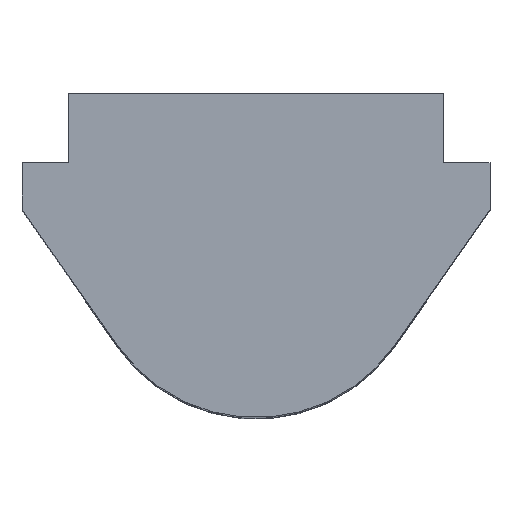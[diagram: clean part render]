
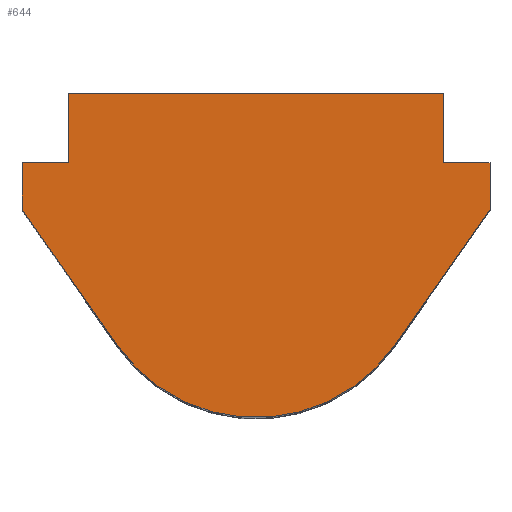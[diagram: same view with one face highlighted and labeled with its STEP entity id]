
A CAD part, top view. The second image highlights one B-rep face of the part: STEP entity #644.
In plain terms, the highlighted planar face has unit normal (0, 0, 1).
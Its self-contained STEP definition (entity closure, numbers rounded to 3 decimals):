
#4 = LINE ( 'NONE', #164, #259 ) ;
#11 = DIRECTION ( 'NONE',  ( 0., -1., 0. ) ) ;
#13 = DIRECTION ( 'NONE',  ( 0., 0., 1. ) ) ;
#19 = CARTESIAN_POINT ( 'NONE',  ( 5.05, -2.5, 10. ) ) ;
#33 = EDGE_CURVE ( 'NONE', #517, #569, #4, .T. ) ;
#41 = LINE ( 'NONE', #574, #222 ) ;
#59 = DIRECTION ( 'NONE',  ( -1., 0., 0. ) ) ;
#69 = CARTESIAN_POINT ( 'NONE',  ( -4.05, -1.5, 10. ) ) ;
#73 = VECTOR ( 'NONE', #597, 1000. ) ;
#86 = CARTESIAN_POINT ( 'NONE',  ( 5.05, -1.5, 10. ) ) ;
#93 = VERTEX_POINT ( 'NONE', #186 ) ;
#96 = CARTESIAN_POINT ( 'NONE',  ( 5.05, -1.5, 10. ) ) ;
#102 = VERTEX_POINT ( 'NONE', #229 ) ;
#109 = ORIENTED_EDGE ( 'NONE', *, *, #623, .T. ) ;
#121 = CARTESIAN_POINT ( 'NONE',  ( 0., -3.352, 10. ) ) ;
#137 = VERTEX_POINT ( 'NONE', #232 ) ;
#164 = CARTESIAN_POINT ( 'NONE',  ( 2.988, -5.444, 10. ) ) ;
#168 = FACE_OUTER_BOUND ( 'NONE', #532, .T. ) ;
#172 = DIRECTION ( 'NONE',  ( 1., 0., 0. ) ) ;
#173 = CARTESIAN_POINT ( 'NONE',  ( 4.05, 0., 10. ) ) ;
#174 = ORIENTED_EDGE ( 'NONE', *, *, #317, .T. ) ;
#175 = EDGE_CURVE ( 'NONE', #315, #646, #568, .T. ) ;
#181 = VECTOR ( 'NONE', #521, 1000. ) ;
#186 = CARTESIAN_POINT ( 'NONE',  ( -5.05, -1.5, 10. ) ) ;
#197 = EDGE_CURVE ( 'NONE', #93, #684, #360, .T. ) ;
#208 = ORIENTED_EDGE ( 'NONE', *, *, #592, .T. ) ;
#213 = VECTOR ( 'NONE', #460, 1000. ) ;
#222 = VECTOR ( 'NONE', #357, 1000. ) ;
#224 = EDGE_CURVE ( 'NONE', #569, #261, #41, .T. ) ;
#229 = CARTESIAN_POINT ( 'NONE',  ( 4.05, -1.5, 10. ) ) ;
#232 = CARTESIAN_POINT ( 'NONE',  ( -2.988, -5.444, 10. ) ) ;
#252 = CARTESIAN_POINT ( 'NONE',  ( -5.05, -2.5, 10. ) ) ;
#259 = VECTOR ( 'NONE', #374, 1000. ) ;
#261 = VERTEX_POINT ( 'NONE', #96 ) ;
#264 = ORIENTED_EDGE ( 'NONE', *, *, #175, .T. ) ;
#272 = ORIENTED_EDGE ( 'NONE', *, *, #33, .T. ) ;
#277 = LINE ( 'NONE', #323, #489 ) ;
#315 = VERTEX_POINT ( 'NONE', #173 ) ;
#317 = EDGE_CURVE ( 'NONE', #646, #549, #386, .T. ) ;
#323 = CARTESIAN_POINT ( 'NONE',  ( -2.988, -5.444, 10. ) ) ;
#328 = DIRECTION ( 'NONE',  ( -1., 0., 0. ) ) ;
#337 = DIRECTION ( 'NONE',  ( 0.574, -0.819, 0. ) ) ;
#345 = AXIS2_PLACEMENT_3D ( 'NONE', #389, #13, #172 ) ;
#357 = DIRECTION ( 'NONE',  ( 0., 1., 0. ) ) ;
#360 = LINE ( 'NONE', #252, #181 ) ;
#367 = VECTOR ( 'NONE', #328, 1000. ) ;
#368 = AXIS2_PLACEMENT_3D ( 'NONE', #121, #555, #375 ) ;
#374 = DIRECTION ( 'NONE',  ( 0.574, 0.819, 0. ) ) ;
#375 = DIRECTION ( 'NONE',  ( 1., 0., 0. ) ) ;
#386 = LINE ( 'NONE', #69, #571 ) ;
#389 = CARTESIAN_POINT ( 'NONE',  ( 0., -3.352, 10. ) ) ;
#400 = VECTOR ( 'NONE', #59, 1000. ) ;
#408 = EDGE_CURVE ( 'NONE', #261, #102, #661, .T. ) ;
#434 = CARTESIAN_POINT ( 'NONE',  ( -4.05, -1.5, 10. ) ) ;
#437 = CARTESIAN_POINT ( 'NONE',  ( -5.05, -1.5, 10. ) ) ;
#460 = DIRECTION ( 'NONE',  ( -1., 0., 0. ) ) ;
#464 = ORIENTED_EDGE ( 'NONE', *, *, #535, .T. ) ;
#489 = VECTOR ( 'NONE', #337, 1000. ) ;
#517 = VERTEX_POINT ( 'NONE', #543 ) ;
#521 = DIRECTION ( 'NONE',  ( 0., -1., 0. ) ) ;
#532 = EDGE_LOOP ( 'NONE', ( #109, #272, #584, #628, #208, #264, #174, #669, #591, #464 ) ) ;
#535 = EDGE_CURVE ( 'NONE', #684, #137, #277, .T. ) ;
#543 = CARTESIAN_POINT ( 'NONE',  ( 2.988, -5.444, 10. ) ) ;
#546 = CARTESIAN_POINT ( 'NONE',  ( -4.05, 0., 10. ) ) ;
#549 = VERTEX_POINT ( 'NONE', #434 ) ;
#550 = CIRCLE ( 'NONE', #345, 3.648 ) ;
#551 = CARTESIAN_POINT ( 'NONE',  ( 4.05, -1.5, 10. ) ) ;
#555 = DIRECTION ( 'NONE',  ( 0., 0., 1. ) ) ;
#568 = LINE ( 'NONE', #675, #213 ) ;
#569 = VERTEX_POINT ( 'NONE', #19 ) ;
#571 = VECTOR ( 'NONE', #11, 1000. ) ;
#574 = CARTESIAN_POINT ( 'NONE',  ( 5.05, -2.5, 10. ) ) ;
#583 = EDGE_CURVE ( 'NONE', #549, #93, #642, .T. ) ;
#584 = ORIENTED_EDGE ( 'NONE', *, *, #224, .T. ) ;
#591 = ORIENTED_EDGE ( 'NONE', *, *, #197, .T. ) ;
#592 = EDGE_CURVE ( 'NONE', #102, #315, #638, .T. ) ;
#593 = PLANE ( 'NONE',  #368 ) ;
#597 = DIRECTION ( 'NONE',  ( 0., 1., 0. ) ) ;
#623 = EDGE_CURVE ( 'NONE', #137, #517, #550, .T. ) ;
#628 = ORIENTED_EDGE ( 'NONE', *, *, #408, .T. ) ;
#638 = LINE ( 'NONE', #551, #73 ) ;
#642 = LINE ( 'NONE', #437, #367 ) ;
#644 = ADVANCED_FACE ( 'NONE', ( #168 ), #593, .T. ) ;
#646 = VERTEX_POINT ( 'NONE', #546 ) ;
#660 = CARTESIAN_POINT ( 'NONE',  ( -5.05, -2.5, 10. ) ) ;
#661 = LINE ( 'NONE', #86, #400 ) ;
#669 = ORIENTED_EDGE ( 'NONE', *, *, #583, .T. ) ;
#675 = CARTESIAN_POINT ( 'NONE',  ( -4.05, 0., 10. ) ) ;
#684 = VERTEX_POINT ( 'NONE', #660 ) ;
